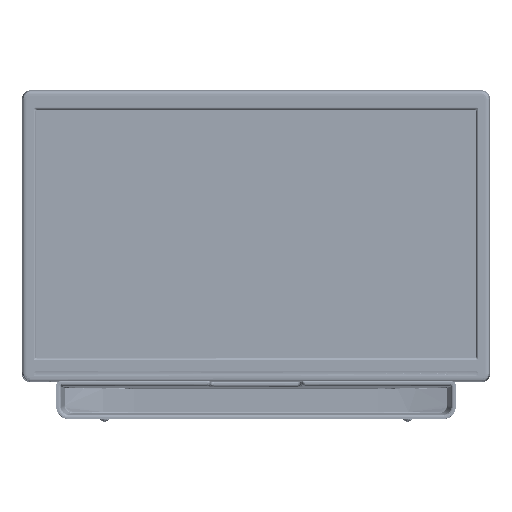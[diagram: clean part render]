
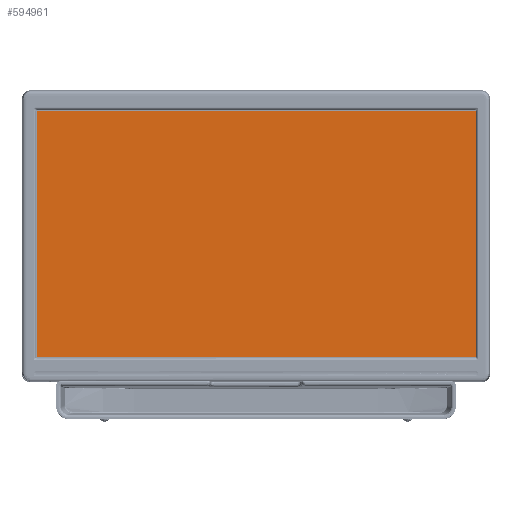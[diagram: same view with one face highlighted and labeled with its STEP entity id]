
A CAD part, top view. The second image highlights one B-rep face of the part: STEP entity #594961.
In plain terms, the highlighted planar face has unit normal (0, 0, 1).
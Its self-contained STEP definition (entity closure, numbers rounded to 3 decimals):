
#13836 = VECTOR ( 'NONE', #325310, 1000. ) ;
#43423 = EDGE_LOOP ( 'NONE', ( #75518, #433592, #281705, #695139 ) ) ;
#50915 = CARTESIAN_POINT ( 'NONE',  ( -260.64, 146.61, -0.01 ) ) ;
#62816 = CARTESIAN_POINT ( 'NONE',  ( -260.64, -146.61, -0.01 ) ) ;
#75518 = ORIENTED_EDGE ( 'NONE', *, *, #85907, .T. ) ;
#77283 = DIRECTION ( 'NONE',  ( 0., 0., 1. ) ) ;
#85907 = EDGE_CURVE ( 'NONE', #417627, #320204, #269388, .T. ) ;
#107593 = LINE ( 'NONE', #652224, #13836 ) ;
#127500 = VERTEX_POINT ( 'NONE', #427807 ) ;
#127824 = AXIS2_PLACEMENT_3D ( 'NONE', #676023, #77283, #568400 ) ;
#201680 = CARTESIAN_POINT ( 'NONE',  ( -260.64, -146.61, -0.01 ) ) ;
#209918 = VECTOR ( 'NONE', #274754, 1000. ) ;
#267719 = CARTESIAN_POINT ( 'NONE',  ( 260.64, 146.61, -0.01 ) ) ;
#269388 = LINE ( 'NONE', #50915, #209918 ) ;
#274754 = DIRECTION ( 'NONE',  ( 0., -1., 0. ) ) ;
#279665 = DIRECTION ( 'NONE',  ( 1., 0., 0. ) ) ;
#281705 = ORIENTED_EDGE ( 'NONE', *, *, #635120, .T. ) ;
#285908 = CARTESIAN_POINT ( 'NONE',  ( 260.64, -146.61, -0.01 ) ) ;
#298901 = PLANE ( 'NONE',  #127824 ) ;
#304956 = EDGE_CURVE ( 'NONE', #320204, #336449, #591957, .T. ) ;
#320204 = VERTEX_POINT ( 'NONE', #201680 ) ;
#325310 = DIRECTION ( 'NONE',  ( -1., 0., 0. ) ) ;
#336449 = VERTEX_POINT ( 'NONE', #285908 ) ;
#381466 = FACE_OUTER_BOUND ( 'NONE', #43423, .T. ) ;
#417627 = VERTEX_POINT ( 'NONE', #564973 ) ;
#424753 = VECTOR ( 'NONE', #651764, 1000. ) ;
#427807 = CARTESIAN_POINT ( 'NONE',  ( 260.64, 146.61, -0.01 ) ) ;
#433592 = ORIENTED_EDGE ( 'NONE', *, *, #304956, .T. ) ;
#564973 = CARTESIAN_POINT ( 'NONE',  ( -260.64, 146.61, -0.01 ) ) ;
#568400 = DIRECTION ( 'NONE',  ( 1., 0., 0. ) ) ;
#569734 = LINE ( 'NONE', #267719, #424753 ) ;
#583683 = VECTOR ( 'NONE', #279665, 1000. ) ;
#591957 = LINE ( 'NONE', #62816, #583683 ) ;
#594961 = ADVANCED_FACE ( 'NONE', ( #381466 ), #298901, .T. ) ;
#635120 = EDGE_CURVE ( 'NONE', #336449, #127500, #569734, .T. ) ;
#651764 = DIRECTION ( 'NONE',  ( 0., 1., 0. ) ) ;
#652224 = CARTESIAN_POINT ( 'NONE',  ( -260.64, 146.61, -0.01 ) ) ;
#676023 = CARTESIAN_POINT ( 'NONE',  ( 0., 0., -0.01 ) ) ;
#691554 = EDGE_CURVE ( 'NONE', #127500, #417627, #107593, .T. ) ;
#695139 = ORIENTED_EDGE ( 'NONE', *, *, #691554, .T. ) ;
